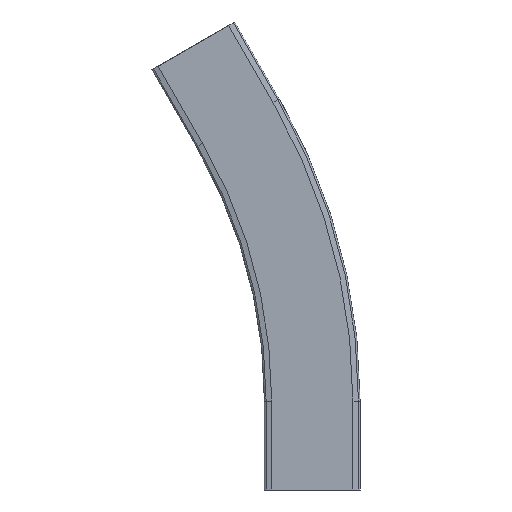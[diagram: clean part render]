
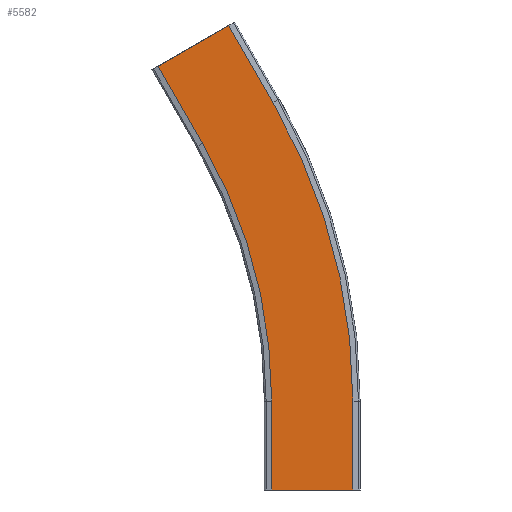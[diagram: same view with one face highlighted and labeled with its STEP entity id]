
A CAD part, front view. The second image highlights one B-rep face of the part: STEP entity #5582.
In plain terms, the highlighted planar face has unit normal (0, -1, 0).
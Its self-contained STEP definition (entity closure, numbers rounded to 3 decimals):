
#5213=CARTESIAN_POINT('',(36.5,-11.,0.0));
#5214=VERTEX_POINT('',#5213);
#5221=CARTESIAN_POINT('',(-36.5,-11.,0.0));
#5222=VERTEX_POINT('',#5221);
#5223=CARTESIAN_POINT('',(-36.5,-11.,0.0));
#5224=DIRECTION('',(1.0,0.0,0.0));
#5225=VECTOR('',#5224,73.);
#5226=LINE('',#5223,#5225);
#5227=EDGE_CURVE('',#5222,#5214,#5226,.T.);
#5293=CARTESIAN_POINT('',(-36.5,-11.,80.0));
#5294=VERTEX_POINT('',#5293);
#5308=CARTESIAN_POINT('',(-36.5,-11.,0.0));
#5309=DIRECTION('',(0.0,0.0,1.0));
#5310=VECTOR('',#5309,80.0);
#5311=LINE('',#5308,#5310);
#5312=EDGE_CURVE('',#5222,#5294,#5311,.T.);
#5322=CARTESIAN_POINT('',(36.5,-11.,80.0));
#5323=VERTEX_POINT('',#5322);
#5332=CARTESIAN_POINT('',(36.5,-11.,0.0));
#5333=DIRECTION('',(0.0,0.0,1.0));
#5334=VECTOR('',#5333,80.0);
#5335=LINE('',#5332,#5334);
#5336=EDGE_CURVE('',#5214,#5323,#5335,.T.);
#5409=CARTESIAN_POINT('',(-35.377,-11.,348.25));
#5410=VERTEX_POINT('',#5409);
#5419=CARTESIAN_POINT('',(-500.0,-11.,80.0));
#5420=DIRECTION('',(0.0,-1.0,0.0));
#5421=DIRECTION('',(1.0,0.0,0.0));
#5422=AXIS2_PLACEMENT_3D('',#5419,#5420,#5421);
#5423=CIRCLE('',#5422,536.5);
#5424=EDGE_CURVE('',#5323,#5410,#5423,.T.);
#5476=CARTESIAN_POINT('',(-98.597,-11.,311.75));
#5477=VERTEX_POINT('',#5476);
#5492=CARTESIAN_POINT('',(-500.0,-11.,80.0));
#5493=DIRECTION('',(0.0,-1.0,0.0));
#5494=DIRECTION('',(1.0,0.0,0.0));
#5495=AXIS2_PLACEMENT_3D('',#5492,#5493,#5494);
#5496=CIRCLE('',#5495,463.5);
#5497=EDGE_CURVE('',#5294,#5477,#5496,.T.);
#5536=CARTESIAN_POINT('',(-138.597,-11.,381.032));
#5537=VERTEX_POINT('',#5536);
#5546=CARTESIAN_POINT('',(-98.597,-11.,311.75));
#5547=DIRECTION('',(-0.5,0.0,0.866));
#5548=VECTOR('',#5547,80.);
#5549=LINE('',#5546,#5548);
#5550=EDGE_CURVE('',#5477,#5537,#5549,.T.);
#5555=CARTESIAN_POINT('',(135.522,-11.,52.243));
#5556=DIRECTION('',(0.0,-1.0,0.0));
#5557=DIRECTION('',(0.5,0.0,-0.866));
#5558=AXIS2_PLACEMENT_3D('',#5555,#5556,#5557);
#5559=PLANE('',#5558);
#5560=CARTESIAN_POINT('',(-75.377,-11.,417.532));
#5561=VERTEX_POINT('',#5560);
#5562=CARTESIAN_POINT('',(-75.377,-11.,417.532));
#5563=DIRECTION('',(-0.866,0.,-0.5));
#5564=VECTOR('',#5563,73.);
#5565=LINE('',#5562,#5564);
#5566=EDGE_CURVE('',#5561,#5537,#5565,.T.);
#5567=ORIENTED_EDGE('',*,*,#5566,.T.);
#5568=ORIENTED_EDGE('',*,*,#5550,.F.);
#5569=ORIENTED_EDGE('',*,*,#5497,.F.);
#5570=ORIENTED_EDGE('',*,*,#5312,.F.);
#5571=ORIENTED_EDGE('',*,*,#5227,.T.);
#5572=ORIENTED_EDGE('',*,*,#5336,.T.);
#5573=ORIENTED_EDGE('',*,*,#5424,.T.);
#5574=CARTESIAN_POINT('',(-35.377,-11.,348.25));
#5575=DIRECTION('',(-0.5,0.0,0.866));
#5576=VECTOR('',#5575,80.);
#5577=LINE('',#5574,#5576);
#5578=EDGE_CURVE('',#5410,#5561,#5577,.T.);
#5579=ORIENTED_EDGE('',*,*,#5578,.T.);
#5580=EDGE_LOOP('',(#5567,#5568,#5569,#5570,#5571,#5572,#5573,#5579));
#5581=FACE_OUTER_BOUND('',#5580,.T.);
#5582=ADVANCED_FACE('',(#5581),#5559,.T.);
